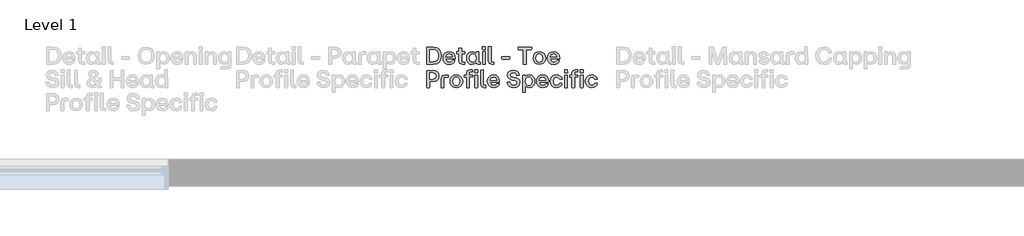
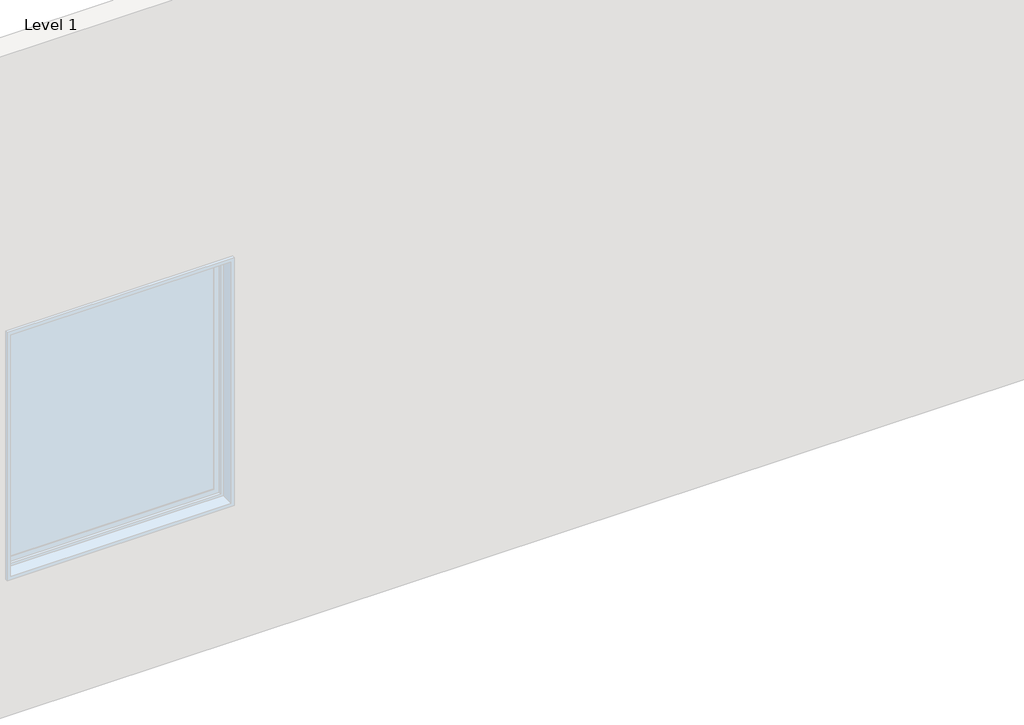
# One storey, part 63 of 64: 1 proxy.
"""IFC4 building model written with IfcOpenShell, lengths in millimetres."""

import ifcopenshell
import ifcopenshell.guid

model = None  # the IFC model being written
_history = None  # IfcOwnerHistory: only IFC2X3 demands one
_inside = {}  # id of a spatial element -> (the spatial element, [elements in it])
_under = {}  # id of a project, library or spatial element -> (it, [spatial elements below it])
_declared = {}  # id of a project -> (the project, [libraries it declares])
_typed = {}  # id of a type object -> (the type object, [elements of that type])
_made_of = {}  # id of a material, layer set ... -> (it, [elements and type objects made of it])


def new_model(schema):
    """Start an empty IFC model of exactly this schema.

    Asked for "IFC4X3", IfcOpenShell would pick the latest addendum, in which some entities
    have other attributes; the version numbers below select the first issue.
    IFC2X3 requires an IfcOwnerHistory on every rooted entity: one is made here for all.
    """
    global model, _history
    if schema == "IFC4X3":
        model = ifcopenshell.file(schema_version=(4, 3, 0, 0))
    else:
        model = ifcopenshell.file(schema=schema)
    _inside.clear()
    _under.clear()
    _declared.clear()
    _typed.clear()
    _made_of.clear()
    _history = None
    if model.schema == "IFC2X3":
        org = make("IfcOrganization", Name="unknown")
        user = make(
            "IfcPersonAndOrganization",
            ThePerson=make("IfcPerson", FamilyName="unknown"),
            TheOrganization=org,
        )
        app = make(
            "IfcApplication",
            ApplicationDeveloper=org,
            Version="unknown",
            ApplicationFullName="unknown",
            ApplicationIdentifier="unknown",
        )
        _history = make(
            "IfcOwnerHistory",
            OwningUser=user,
            OwningApplication=app,
            ChangeAction="ADDED",
            CreationDate=0,
        )
    return model


def make(cls, **values):
    """One entity of the class cls with the attributes given. An attribute that is None is left unset."""
    return model.create_entity(
        cls, **{name: value for name, value in values.items() if value is not None}
    )


def rooted(cls, **values):
    """An entity with a GlobalId (a new one), such as an element, a storey or a relation."""
    return make(cls, GlobalId=ifcopenshell.guid.new(), OwnerHistory=_history, **values)


def si_unit(unit_type, name, prefix=None):
    """IfcSIUnit, for example si_unit("LENGTHUNIT", "METRE", prefix="MILLI")."""
    return make("IfcSIUnit", UnitType=unit_type, Prefix=prefix, Name=name)


def assignment(units):
    """IfcUnitAssignment: the units of a project."""
    return None if units is None else make("IfcUnitAssignment", Units=units)


def point(xyz):
    """IfcCartesianPoint."""
    return None if xyz is None else make("IfcCartesianPoint", Coordinates=xyz)


def direction(xyz):
    """IfcDirection."""
    return None if xyz is None else make("IfcDirection", DirectionRatios=xyz)


def frame(location, z_axis=None, x_axis=None):
    """IfcAxis2Placement3D, a coordinate frame: its origin and axes. An axis left out is left unset."""
    return make(
        "IfcAxis2Placement3D",
        Location=point(location),
        Axis=direction(z_axis),
        RefDirection=direction(x_axis),
    )


def origin():
    """The frame at (0, 0, 0) with its axes left unset."""
    return frame((0.0, 0.0, 0.0))


def origin_with_axes():
    """The frame at (0, 0, 0) with the z axis (0, 0, 1) and the x axis (1, 0, 0) written out."""
    return frame((0.0, 0.0, 0.0), z_axis=(0.0, 0.0, 1.0), x_axis=(1.0, 0.0, 0.0))


def place(relative_to, where):
    """IfcLocalPlacement: puts the frame where relative to a parent placement (None: the world)."""
    return make(
        "IfcLocalPlacement", PlacementRelTo=relative_to, RelativePlacement=where
    )


def context(
    kind, dimensions, precision=None, world=None, true_north=None, identifier=None
):
    """IfcGeometricRepresentationContext, for example the 3D "Model" context."""
    return make(
        "IfcGeometricRepresentationContext",
        ContextIdentifier=identifier,
        ContextType=kind,
        CoordinateSpaceDimension=dimensions,
        Precision=precision,
        WorldCoordinateSystem=world,
        TrueNorth=true_north,
    )


def project(units=None, contexts=None):
    """IfcProject with its units and contexts."""
    return rooted(
        "IfcProject",
        Name="project",
        RepresentationContexts=contexts,
        UnitsInContext=assignment(units),
    )


def spatial(cls, under=None, at=None, **own):
    """A site, building, storey or space (cls), placed at a placement, below another one or the project."""
    s = rooted(cls, ObjectPlacement=at, **own)
    if under is not None:
        _under.setdefault(under.id(), (under, []))[1].append(s)
    return s


def polyline(points):
    """IfcPolyline through the points."""
    return make("IfcPolyline", Points=[point(p) for p in points])


def outline(outer, holes=None, kind="AREA"):
    """IfcArbitraryClosedProfileDef: a profile drawn as a closed curve; with holes, ...WithVoids."""
    if holes is None:
        return make("IfcArbitraryClosedProfileDef", ProfileType=kind, OuterCurve=outer)
    return make(
        "IfcArbitraryProfileDefWithVoids",
        ProfileType=kind,
        OuterCurve=outer,
        InnerCurves=holes,
    )


def extrude(swept, where, along, depth):
    """IfcExtrudedAreaSolid: the profile swept, set in the frame where, extruded along a direction by depth."""
    return make(
        "IfcExtrudedAreaSolid",
        SweptArea=swept,
        Position=where,
        ExtrudedDirection=direction(along),
        Depth=depth,
    )


def shape(context_of_items, identifier, shape_type, items):
    """IfcShapeRepresentation: the items that make up one representation, for example the "Body"."""
    return make(
        "IfcShapeRepresentation",
        ContextOfItems=context_of_items,
        RepresentationIdentifier=identifier,
        RepresentationType=shape_type,
        Items=items,
    )


def made_of(thing, what):
    """Note that an element or type object is made of a material, layer set ...; save() writes the relation."""
    if what is not None:
        _made_of.setdefault(what.id(), (what, []))[1].append(thing)
    return thing


def element(
    cls,
    number,
    at=None,
    inside=None,
    cuts=None,
    type_object=None,
    material=None,
    context=None,
    identifier="Body",
    shape_type=None,
    held_by="IfcProductDefinitionShape",
    body=None,
    shapes=None,
    **own,
):
    """One element of the class cls, such as IfcWall. Its Tag is "e" and its number.

    at: its placement. inside: the storey or other place that contains it. cuts: it is an
    opening in that element (IfcRelVoidsElement). A single representation is given by context,
    identifier, shape_type and body (its items); several are given by shapes. held_by: the class
    of the entity that holds the representations. save() writes the other relations.
    """
    e = rooted(cls, Tag="e%d" % number, ObjectPlacement=at, **own)
    if body is not None:
        shapes = [shape(context, identifier, shape_type, body)]
    if shapes is not None:
        e.Representation = make(held_by, Representations=shapes)
    if inside is not None:
        _inside.setdefault(inside.id(), (inside, []))[1].append(e)
    if cuts is not None:
        rooted(
            "IfcRelVoidsElement", RelatingBuildingElement=cuts, RelatedOpeningElement=e
        )
    if type_object is not None:
        _typed.setdefault(type_object.id(), (type_object, []))[1].append(e)
    return made_of(e, material)


def aggregate(whole, parts):
    """IfcRelAggregates: a whole, such as a stair, and the parts it consists of."""
    return rooted("IfcRelAggregates", RelatingObject=whole, RelatedObjects=parts)


def save(model, path):
    """Write the relations noted so far, then the file.

    IfcRelAggregates (storeys below a building ...), IfcRelContainedInSpatialStructure (elements
    in a storey), IfcRelDefinesByType, IfcRelAssociatesMaterial and IfcRelDeclares: one each for
    every whole, place, type object, material and project.
    """
    for whole, parts in _under.values():
        aggregate(whole, parts)
    for where, things in _inside.values():
        rooted(
            "IfcRelContainedInSpatialStructure",
            RelatedElements=things,
            RelatingStructure=where,
        )
    for kind, things in _typed.values():
        rooted("IfcRelDefinesByType", RelatedObjects=things, RelatingType=kind)
    for what, things in _made_of.values():
        rooted("IfcRelAssociatesMaterial", RelatedObjects=things, RelatingMaterial=what)
    for by, libraries in _declared.values():
        rooted("IfcRelDeclares", RelatingContext=by, RelatedDefinitions=libraries)
    model.write(path)


model = new_model("IFC4")

# Units and contexts
model_context = context("Model", 3, world=origin())
ifc_project = project(units=[si_unit("LENGTHUNIT", "METRE", prefix="MILLI")], contexts=[model_context])

# Site, building, storey
site = spatial("IfcSite", under=ifc_project)
building = spatial("IfcBuilding", under=site)
storey = spatial("IfcBuildingStorey", under=building, Name="Level 1", Elevation=0.0)

# Proxy
placement = place(None, origin())
element("IfcBuildingElementProxy", 1, Name="90mm", ObjectType="90mm", at=placement, inside=storey, context=model_context, shape_type="SweptSolid", body=[
    extrude(outline(polyline([(17110.2926176, 6000.0), (17108.9872124, 6001.2551973), (17108.9872124, 6088.6922388), (17142.5511873, 6089.997644), (17160.5475781, 6086.9945845), (17174.1193986, 6077.9854062), (17182.63905, 6063.6416394), (17185.4789338, 6044.6348148), (17182.648464, 6025.7974418), (17174.1570545, 6011.7109905), (17160.594648, 6002.9277476), (17142.5511873, 6000.0), (17110.2926176, 6000.0)]), holes=[polyline([(17123.7985402, 6012.6272845), (17141.6725492, 6012.6272845), (17153.8950326, 6014.688946), (17162.9481429, 6020.8739305), (17168.5494607, 6030.9374746), (17170.4165666, 6044.6348148), (17168.5431847, 6058.4890546), (17162.923039, 6068.8224661), (17153.8636527, 6075.2522141), (17141.6725492, 6077.3954634), (17123.7985402, 6077.3954634), (17123.7985402, 6012.6272845)])]), origin_with_axes(), (0.0, 0.0, 1.0), 20.0),
    extrude(outline(polyline([(17227.628458, 5999.2468816), (17214.0409476, 6001.5156507), (17203.5035666, 6008.3219579), (17196.7443293, 6018.9377888), (17194.4912502, 6032.6351289), (17196.7349153, 6046.4987827), (17203.4659107, 6057.2118914), (17213.9938777, 6064.0652685), (17227.628458, 6066.3497275), (17240.1584647, 6064.0966484), (17249.7324819, 6057.3374111), (17255.8044987, 6046.6870623), (17257.8285043, 6032.7606486), (17257.8285043, 6029.3214081), (17256.573307, 6027.990899), (17209.1268503, 6027.990899), (17214.6497183, 6015.3134066), (17227.628458, 6010.7946965), (17238.0465953, 6013.0917075), (17243.4439436, 6019.5308695), (17244.8246606, 6020.5852352), (17256.1967478, 6020.5852352), (17254.1633282, 6011.2685335), (17247.8120301, 6004.8074055), (17238.8248176, 6000.6370126), (17227.628458, 5999.2468816)]), holes=[polyline([(17209.2523701, 6038.4090363), (17243.8205028, 6038.4090363), (17239.0633051, 6050.3710663), (17227.628458, 6054.7266008), (17214.8631018, 6050.5844498), (17209.2523701, 6038.4090363)])]), origin_with_axes(), (0.0, 0.0, 1.0), 20.0),
    extrude(outline(polyline([(17296.6140998, 6000.0), (17282.731618, 6004.7697496), (17277.9618684, 6018.6522314), (17277.9618684, 6054.2245219), (17266.7906127, 6054.2245219), (17265.4852076, 6064.2661), (17266.7906127, 6065.5212973), (17277.9618684, 6065.5212973), (17277.9618684, 6083.54593), (17279.2170657, 6084.8513352), (17290.9657121, 6084.8513352), (17292.2209094, 6083.54593), (17292.2209094, 6065.5212973), (17308.0363949, 6065.5212973), (17309.3418001, 6064.2661), (17309.3418001, 6055.555031), (17292.2209094, 6054.2245219), (17292.2209094, 6011.2967754), (17308.0363949, 6011.2967754), (17309.3418001, 6010.0415781), (17309.3418001, 6001.2551973), (17308.0363949, 6000.0), (17296.6140998, 6000.0)])), origin_with_axes(), (0.0, 0.0, 1.0), 20.0),
    extrude(outline(polyline([(17347.2738615, 5999.2468816), (17335.3243835, 6001.5156507), (17326.0861316, 6008.3219579), (17320.1741525, 6018.9377888), (17318.2034928, 6032.6351289), (17320.1741525, 6046.4674028), (17326.0861316, 6057.1867875), (17335.3243835, 6064.0589925), (17347.2738615, 6066.3497275), (17359.1856835, 6063.4627738), (17368.160344, 6055.555031), (17368.7377347, 6064.2661), (17369.992932, 6065.5212973), (17381.6662665, 6065.5212973), (17382.9716717, 6064.2661), (17382.9716717, 6011.2967754), (17390.0760882, 6011.2967754), (17391.3312855, 6010.0415781), (17391.3312855, 6001.2551973), (17390.0760882, 6000.0), (17380.536589, 6000.0), (17372.1581473, 6002.3534949), (17369.3653333, 6009.4139795), (17359.7254183, 6002.1338354), (17347.2738615, 5999.2468816)]), holes=[polyline([(17332.7135732, 6032.6351289), (17337.6716024, 6016.6313638), (17343.5365116, 6012.2538633), (17351.2151809, 6010.7946965), (17358.7714684, 6012.2475873), (17364.470064, 6016.6062598), (17369.2398136, 6032.6351289), (17364.4324081, 6048.8271737), (17358.7243985, 6053.251744), (17351.2151809, 6054.7266008), (17343.5365116, 6053.251744), (17337.6716024, 6048.8271737), (17332.7135732, 6032.6351289)])]), origin_with_axes(), (0.0, 0.0, 1.0), 20.0),
    extrude(outline(polyline([(17403.6824266, 6000.0), (17402.3770214, 6001.2551973), (17402.3770214, 6064.2661), (17403.6824266, 6065.5212973), (17415.3557612, 6065.5212973), (17416.6109584, 6064.2661), (17416.6109584, 6001.2551973), (17415.3557612, 6000.0), (17403.6824266, 6000.0)])), origin_with_axes(), (0.0, 0.0, 1.0), 20.0),
    extrude(outline(polyline([(17401.3728636, 6078.1485818), (17401.3728636, 6092.0059596), (17402.6280609, 6093.3364687), (17416.4854387, 6093.3364687), (17417.8159478, 6078.1485818), (17416.4854387, 6076.8933845), (17402.6280609, 6076.8933845), (17401.3728636, 6078.1485818)])), origin_with_axes(), (0.0, 0.0, 1.0), 20.0),
    extrude(outline(polyline([(17451.5305464, 6000.0), (17437.6731686, 6004.7697496), (17432.903419, 6018.6522314), (17432.903419, 6091.2528413), (17445.8821587, 6092.5833504), (17447.137356, 6091.2528413), (17447.137356, 6011.2967754), (17459.1370418, 6011.2967754), (17460.3922391, 6010.0415781), (17460.3922391, 6001.2551973), (17459.1370418, 6000.0), (17451.5305464, 6000.0)])), origin_with_axes(), (0.0, 0.0, 1.0), 20.0),
    extrude(outline(polyline([(17505.1776775, 6027.112261), (17503.9224803, 6028.4427701), (17503.9224803, 6038.4090363), (17505.1776775, 6039.7395454), (17543.7875455, 6039.7395454), (17545.0427427, 6038.4090363), (17545.0427427, 6028.4427701), (17543.7875455, 6027.112261), (17505.1776775, 6027.112261)])), origin_with_axes(), (0.0, 0.0, 1.0), 20.0),
    extrude(outline(polyline([(17618.5973025, 6000.0), (17617.3421053, 6001.2551973), (17617.3421053, 6077.3954634), (17590.355364, 6077.3954634), (17589.0499589, 6078.6506607), (17589.0499589, 6088.6922388), (17659.1401742, 6089.997644), (17660.3953715, 6088.6922388), (17660.3953715, 6078.6506607), (17659.1401742, 6077.3954634), (17632.153433, 6077.3954634), (17632.153433, 6001.2551973), (17630.8480278, 6000.0), (17618.5973025, 6000.0)])), origin_with_axes(), (0.0, 0.0, 1.0), 20.0),
    extrude(outline(polyline([(17701.2143866, 5999.2468816), (17687.9877454, 6001.5533066), (17677.5288142, 6008.4725815), (17670.722507, 6019.1260683), (17668.4537379, 6032.6351289), (17670.728783, 6046.2320533), (17677.5539181, 6056.9985079), (17688.0191253, 6064.0119226), (17701.2143866, 6066.3497275), (17714.5665475, 6064.0119226), (17725.1007906, 6056.9985079), (17731.9447537, 6046.2320533), (17734.2260747, 6032.6351289), (17731.9447537, 6019.1260683), (17725.1007906, 6008.4725815), (17714.5665475, 6001.5533066), (17701.2143866, 5999.2468816)]), holes=[polyline([(17682.9638183, 6032.6351289), (17687.8214318, 6016.6062598), (17693.5984772, 6012.2475873), (17701.2143866, 6010.7946965), (17708.9118838, 6012.2538633), (17714.783069, 6016.6313638), (17719.7410982, 6032.6351289), (17714.808173, 6048.8271737), (17708.9432638, 6053.251744), (17701.2143866, 6054.7266008), (17693.5984772, 6053.251744), (17687.8214318, 6048.8271737), (17682.9638183, 6032.6351289)])]), origin_with_axes(), (0.0, 0.0, 1.0), 20.0),
    extrude(outline(polyline([(17777.1036133, 5999.2468816), (17763.5161029, 6001.5156507), (17752.9787219, 6008.3219579), (17746.2194846, 6018.9377888), (17743.9664055, 6032.6351289), (17746.2100706, 6046.4987827), (17752.9410659, 6057.2118914), (17763.469033, 6064.0652685), (17777.1036133, 6066.3497275), (17789.63362, 6064.0966484), (17799.2076372, 6057.3374111), (17805.2796539, 6046.6870623), (17807.3036595, 6032.7606486), (17807.3036595, 6029.3214081), (17806.0484623, 6027.990899), (17758.6020056, 6027.990899), (17764.1248736, 6015.3134066), (17777.1036133, 6010.7946965), (17787.5217506, 6013.0917075), (17792.9190989, 6019.5308695), (17794.2998159, 6020.5852352), (17805.6719031, 6020.5852352), (17803.6384835, 6011.2685335), (17797.2871854, 6004.8074055), (17788.2999729, 6000.6370126), (17777.1036133, 5999.2468816)]), holes=[polyline([(17758.7275253, 6038.4090363), (17793.295658, 6038.4090363), (17788.5384604, 6050.3710663), (17777.1036133, 6054.7266008), (17764.3382571, 6050.5844498), (17758.7275253, 6038.4090363)])]), origin_with_axes(), (0.0, 0.0, 1.0), 20.0),
    extrude(outline(polyline([(17110.2926176, 5877.86695), (17108.9872124, 5879.1221472), (17108.9872124, 5966.5591888), (17140.1161046, 5967.864594), (17154.0174144, 5965.9661081), (17164.3414119, 5960.2706505), (17170.7429179, 5951.0763305), (17172.8767533, 5938.6812575), (17170.7429179, 5926.2861845), (17164.3414119, 5917.0918646), (17154.0174144, 5911.396407), (17140.1161046, 5909.4979211), (17123.7985402, 5909.4979211), (17123.7985402, 5879.1221472), (17122.4680311, 5877.86695), (17110.2926176, 5877.86695)]), holes=[polyline([(17123.7985402, 5922.1252056), (17140.1161046, 5922.1252056), (17153.5969233, 5926.2045967), (17157.9901137, 5938.6938095), (17153.5969233, 5951.1830223), (17140.1161046, 5955.2624134), (17123.7985402, 5955.2624134), (17123.7985402, 5922.1252056)])]), origin_with_axes(), (0.0, 0.0, 1.0), 20.0),
    extrude(outline(polyline([(17186.1065325, 5877.86695), (17184.8513352, 5879.1221472), (17184.8513352, 5924.8113277), (17189.6210848, 5938.6561536), (17203.4784626, 5943.3882473), (17221.7541348, 5943.3882473), (17223.0093321, 5942.13305), (17223.0093321, 5932.5935508), (17221.7541348, 5931.3383535), (17199.0852722, 5931.3383535), (17199.0852722, 5879.1221472), (17197.8300749, 5877.86695), (17186.1065325, 5877.86695)])), origin_with_axes(), (0.0, 0.0, 1.0), 20.0),
    extrude(outline(polyline([(17264.2049064, 5877.1138316), (17250.9782652, 5879.4202566), (17240.519334, 5886.3395315), (17233.7130268, 5896.9930183), (17231.4442577, 5910.5020789), (17233.7193028, 5924.0990033), (17240.5444379, 5934.8654578), (17251.0096451, 5941.8788726), (17264.2049064, 5944.2166775), (17277.5570673, 5941.8788726), (17288.0913103, 5934.8654578), (17294.9352734, 5924.0990033), (17297.2165945, 5910.5020789), (17294.9352734, 5896.9930183), (17288.0913103, 5886.3395315), (17277.5570673, 5879.4202566), (17264.2049064, 5877.1138316)]), holes=[polyline([(17245.9543381, 5910.5020789), (17250.8119515, 5894.4732098), (17256.588997, 5890.1145373), (17264.2049064, 5888.6616465), (17271.9024036, 5890.1208133), (17277.7735888, 5894.4983138), (17282.731618, 5910.5020789), (17277.7986928, 5926.6941236), (17271.9337835, 5931.118694), (17264.2049064, 5932.5935508), (17256.588997, 5931.118694), (17250.8119515, 5926.6941236), (17245.9543381, 5910.5020789)])]), origin_with_axes(), (0.0, 0.0, 1.0), 20.0),
    extrude(outline(polyline([(17319.3833782, 5877.86695), (17318.1281809, 5879.1221472), (17318.1281809, 5932.0914719), (17306.9569253, 5932.0914719), (17305.6515201, 5942.13305), (17306.9569253, 5943.3882473), (17318.1281809, 5943.3882473), (17318.1281809, 5951.798069), (17322.8979305, 5965.6805507), (17336.7804123, 5970.4503003), (17348.2027074, 5970.4503003), (17349.5081126, 5960.4087222), (17332.3872219, 5959.0782131), (17332.3872219, 5943.3882473), (17348.2027074, 5943.3882473), (17349.5081126, 5942.13305), (17349.5081126, 5933.421981), (17332.3872219, 5932.0914719), (17332.3872219, 5879.1221472), (17331.1320246, 5877.86695), (17319.3833782, 5877.86695)])), origin_with_axes(), (0.0, 0.0, 1.0), 20.0),
    extrude(outline(polyline([(17361.3069669, 5956.0155318), (17361.3069669, 5969.8729096), (17362.5621642, 5971.2034187), (17376.4948538, 5971.2034187), (17377.7500511, 5969.8729096), (17377.7500511, 5956.0155318), (17376.4948538, 5954.7603345), (17362.5621642, 5954.7603345), (17361.3069669, 5956.0155318)])), origin_with_axes(), (0.0, 0.0, 1.0), 20.0),
    extrude(outline(polyline([(17362.3111247, 5879.1221472), (17362.3111247, 5942.13305), (17363.6416338, 5943.3882473), (17375.3149684, 5943.3882473), (17376.6203735, 5942.13305), (17376.6203735, 5879.1221472), (17375.3149684, 5877.86695), (17363.6416338, 5877.86695), (17362.3111247, 5879.1221472)])), origin_with_axes(), (0.0, 0.0, 1.0), 20.0),
    extrude(outline(polyline([(17411.3642339, 5877.86695), (17397.506856, 5882.6366996), (17392.7371064, 5896.5191814), (17392.7371064, 5969.1197912), (17405.7158462, 5970.4503003), (17406.9710434, 5969.1197912), (17406.9710434, 5889.1637254), (17418.9707293, 5889.1637254), (17420.2259266, 5887.9085281), (17420.2259266, 5879.1221472), (17418.9707293, 5877.86695), (17411.3642339, 5877.86695)])), origin_with_axes(), (0.0, 0.0, 1.0), 20.0),
    extrude(outline(polyline([(17460.5930707, 5877.1138316), (17447.0055602, 5879.3826007), (17436.4681792, 5886.1889079), (17429.7089419, 5896.8047387), (17427.4558628, 5910.5020789), (17429.6995279, 5924.3657327), (17436.4305233, 5935.0788414), (17446.9584903, 5941.9322185), (17460.5930707, 5944.2166775), (17473.1230774, 5941.9635984), (17482.6970945, 5935.2043611), (17488.7691113, 5924.5540123), (17490.7931169, 5910.6275986), (17490.7931169, 5907.1883581), (17489.5379196, 5905.857849), (17442.0914629, 5905.857849), (17447.6143309, 5893.1803566), (17460.5930707, 5888.6616465), (17471.011208, 5890.9586575), (17476.4085562, 5897.3978194), (17477.7892732, 5898.4521852), (17489.1613604, 5898.4521852), (17487.1279409, 5889.1354834), (17480.7766427, 5882.6743555), (17471.7894303, 5878.5039626), (17460.5930707, 5877.1138316)]), holes=[polyline([(17442.2169827, 5916.2759863), (17476.7851154, 5916.2759863), (17472.0279177, 5928.2380163), (17460.5930707, 5932.5935508), (17447.8277145, 5928.4513998), (17442.2169827, 5916.2759863)])]), origin_with_axes(), (0.0, 0.0, 1.0), 20.0),
    extrude(outline(polyline([(17566.8831752, 5877.1138316), (17553.1136611, 5878.9652476), (17542.4319324, 5884.5194955), (17535.1706162, 5893.4941559), (17531.6623399, 5905.6068096), (17544.917223, 5907.0628384), (17546.2226282, 5905.857849), (17552.4107507, 5893.3058764), (17566.8831752, 5889.4147648), (17579.3974919, 5892.992077), (17583.8785461, 5902.9206874), (17580.7782089, 5911.1673335), (17570.3977275, 5915.2718285), (17558.5235614, 5917.355456), (17547.5186193, 5920.6095549), (17539.6579465, 5925.9284533), (17534.9415427, 5933.3121512), (17533.3694082, 5942.7606486), (17535.3839998, 5953.602415), (17541.4277746, 5961.7768872), (17551.0802416, 5966.9075061), (17563.9209096, 5968.6177123), (17576.6548859, 5966.8855401), (17586.5897722, 5961.6890234), (17593.3803895, 5953.3356856), (17596.6815583, 5942.13305), (17583.501987, 5940.7021251), (17582.0710621, 5942.13305), (17576.2594987, 5952.8398827), (17563.9209096, 5956.2665712), (17552.1597112, 5953.1285781), (17548.1054241, 5943.965638), (17551.7203922, 5935.267121), (17563.0422715, 5930.7107549), (17574.8411258, 5928.6522314), (17585.6609263, 5925.4828583), (17593.0163822, 5920.3930334), (17597.2338451, 5913.0626813), (17598.639666, 5903.1717269), (17596.5277966, 5892.2577866), (17590.1921884, 5884.0174166), (17580.1411963, 5878.8397279), (17566.8831752, 5877.1138316)])), origin_with_axes(), (0.0, 0.0, 1.0), 20.0),
    extrude(outline(polyline([(17614.1539042, 5853.4659151), (17612.848499, 5854.7211124), (17612.848499, 5942.13305), (17614.1539042, 5943.3882473), (17625.1996401, 5943.3882473), (17626.4548374, 5942.13305), (17626.4548374, 5933.5475007), (17636.0947524, 5941.3297238), (17648.5463093, 5944.2166775), (17660.4957873, 5941.9416324), (17669.7340392, 5935.1164973), (17675.6460183, 5924.4755625), (17677.616678, 5910.7531184), (17675.6460183, 5896.9459484), (17669.7340392, 5886.2516677), (17660.4957873, 5879.3982906), (17648.5463093, 5877.1138316), (17636.6344872, 5880.0007853), (17627.6598268, 5887.9085281), (17627.082436, 5854.7211124), (17625.8272388, 5853.4659151), (17614.1539042, 5853.4659151)]), holes=[polyline([(17626.5803571, 5910.7531184), (17631.3877627, 5894.5610736), (17637.0957722, 5890.1365033), (17644.6049899, 5888.6616465), (17652.2836592, 5890.1365033), (17658.1485684, 5894.5610736), (17663.1065976, 5910.7531184), (17658.1485684, 5926.7568835), (17652.2836592, 5931.134384), (17644.6049899, 5932.5935508), (17637.0487023, 5931.143798), (17631.3501068, 5926.7945394), (17626.5803571, 5910.7531184)])]), origin_with_axes(), (0.0, 0.0, 1.0), 20.0),
    extrude(outline(polyline([(17719.2641233, 5877.1138316), (17705.6766129, 5879.3826007), (17695.1392318, 5886.1889079), (17688.3799945, 5896.8047387), (17686.1269155, 5910.5020789), (17688.3705806, 5924.3657327), (17695.1015759, 5935.0788414), (17705.629543, 5941.9322185), (17719.2641233, 5944.2166775), (17731.79413, 5941.9635984), (17741.3681471, 5935.2043611), (17747.4401639, 5924.5540123), (17749.4641695, 5910.6275986), (17749.4641695, 5907.1883581), (17748.2089722, 5905.857849), (17700.7625156, 5905.857849), (17706.2853836, 5893.1803566), (17719.2641233, 5888.6616465), (17729.6822606, 5890.9586575), (17735.0796088, 5897.3978194), (17736.4603258, 5898.4521852), (17747.8324131, 5898.4521852), (17745.7989935, 5889.1354834), (17739.4476953, 5882.6743555), (17730.4604829, 5878.5039626), (17719.2641233, 5877.1138316)]), holes=[polyline([(17700.8880353, 5916.2759863), (17735.456168, 5916.2759863), (17730.6989704, 5928.2380163), (17719.2641233, 5932.5935508), (17706.4987671, 5928.4513998), (17700.8880353, 5916.2759863)])]), origin_with_axes(), (0.0, 0.0, 1.0), 20.0),
    extrude(outline(polyline([(17791.4379661, 5877.1138316), (17777.9445955, 5879.3826007), (17767.4385944, 5886.1889079), (17760.6793571, 5896.8047387), (17758.426278, 5910.5020789), (17760.710737, 5924.0990033), (17767.5641141, 5934.8654578), (17778.1014951, 5941.8788726), (17791.4379661, 5944.2166775), (17802.4209422, 5942.6696468), (17811.3704987, 5938.028555), (17817.6841409, 5930.8456886), (17820.7593742, 5921.6733346), (17808.1320897, 5920.2926176), (17801.7054797, 5929.8321168), (17791.4379661, 5932.5935508), (17783.680847, 5931.118694), (17777.8316277, 5926.6941236), (17772.9363584, 5910.5020789), (17777.8567317, 5894.4355539), (17783.7122269, 5890.1051233), (17791.4379661, 5888.6616465), (17802.019279, 5891.2975607), (17807.3789714, 5899.8329021), (17808.7596884, 5901.0378915), (17820.1317756, 5901.0378915), (17818.12346, 5890.5287524), (17811.7470579, 5883.3019541), (17802.7033616, 5878.6608623), (17791.4379661, 5877.1138316)])), origin_with_axes(), (0.0, 0.0, 1.0), 20.0),
    extrude(outline(polyline([(17833.5623863, 5956.0155318), (17833.5623863, 5969.8729096), (17834.8175836, 5971.2034187), (17848.6749614, 5971.2034187), (17850.0054705, 5956.0155318), (17848.6749614, 5954.7603345), (17834.8175836, 5954.7603345), (17833.5623863, 5956.0155318)])), origin_with_axes(), (0.0, 0.0, 1.0), 20.0),
    extrude(outline(polyline([(17835.8719493, 5877.86695), (17834.5665442, 5879.1221472), (17834.5665442, 5942.13305), (17835.8719493, 5943.3882473), (17847.5452839, 5943.3882473), (17848.8004812, 5942.13305), (17848.8004812, 5879.1221472), (17847.5452839, 5877.86695), (17835.8719493, 5877.86695)])), origin_with_axes(), (0.0, 0.0, 1.0), 20.0),
    extrude(outline(polyline([(17915.6020797, 5956.0155318), (17915.6020797, 5969.8729096), (17916.8572769, 5971.2034187), (17930.7899666, 5971.2034187), (17932.0451639, 5969.8729096), (17932.0451639, 5956.0155318), (17930.7899666, 5954.7603345), (17916.8572769, 5954.7603345), (17915.6020797, 5956.0155318)])), origin_with_axes(), (0.0, 0.0, 1.0), 20.0),
    extrude(outline(polyline([(17916.6062375, 5879.1221472), (17916.6062375, 5942.13305), (17917.9367466, 5943.3882473), (17929.6100812, 5943.3882473), (17930.9154863, 5942.13305), (17930.9154863, 5879.1221472), (17929.6100812, 5877.86695), (17917.9367466, 5877.86695), (17916.6062375, 5879.1221472)])), origin_with_axes(), (0.0, 0.0, 1.0), 20.0),
    extrude(outline(polyline([(17873.678491, 5877.86695), (17872.4232937, 5879.1221472), (17872.4232937, 5932.0914719), (17861.252038, 5932.0914719), (17859.9466329, 5942.13305), (17861.252038, 5943.3882473), (17872.4232937, 5943.3882473), (17872.4232937, 5951.798069), (17877.1930433, 5965.6805507), (17891.0755251, 5970.4503003), (17902.4978202, 5970.4503003), (17903.8032254, 5960.4087222), (17886.6823347, 5959.0782131), (17886.6823347, 5943.3882473), (17902.4978202, 5943.3882473), (17903.8032254, 5942.13305), (17903.8032254, 5933.421981), (17886.6823347, 5932.0914719), (17886.6823347, 5879.1221472), (17885.4271374, 5877.86695), (17873.678491, 5877.86695)])), origin_with_axes(), (0.0, 0.0, 1.0), 20.0),
    extrude(outline(polyline([(17976.2030037, 5877.1138316), (17962.7096331, 5879.3826007), (17952.203632, 5886.1889079), (17945.4443947, 5896.8047387), (17943.1913156, 5910.5020789), (17945.4757746, 5924.0990033), (17952.3291517, 5934.8654578), (17962.8665327, 5941.8788726), (17976.2030037, 5944.2166775), (17987.1859798, 5942.6696468), (17996.1355363, 5938.028555), (18002.4491785, 5930.8456886), (18005.5244118, 5921.6733346), (17992.8971273, 5920.2926176), (17986.4705173, 5929.8321168), (17976.2030037, 5932.5935508), (17968.4458846, 5931.118694), (17962.5966653, 5926.6941236), (17957.701396, 5910.5020789), (17962.6217693, 5894.4355539), (17968.4772645, 5890.1051233), (17976.2030037, 5888.6616465), (17986.7843166, 5891.2975607), (17992.144009, 5899.8329021), (17993.524726, 5901.0378915), (18004.8968132, 5901.0378915), (18002.8884976, 5890.5287524), (17996.5120955, 5883.3019541), (17987.4683992, 5878.6608623), (17976.2030037, 5877.1138316)])), origin_with_axes(), (0.0, 0.0, 1.0), 20.0),
])

save(model, "model.ifc")
